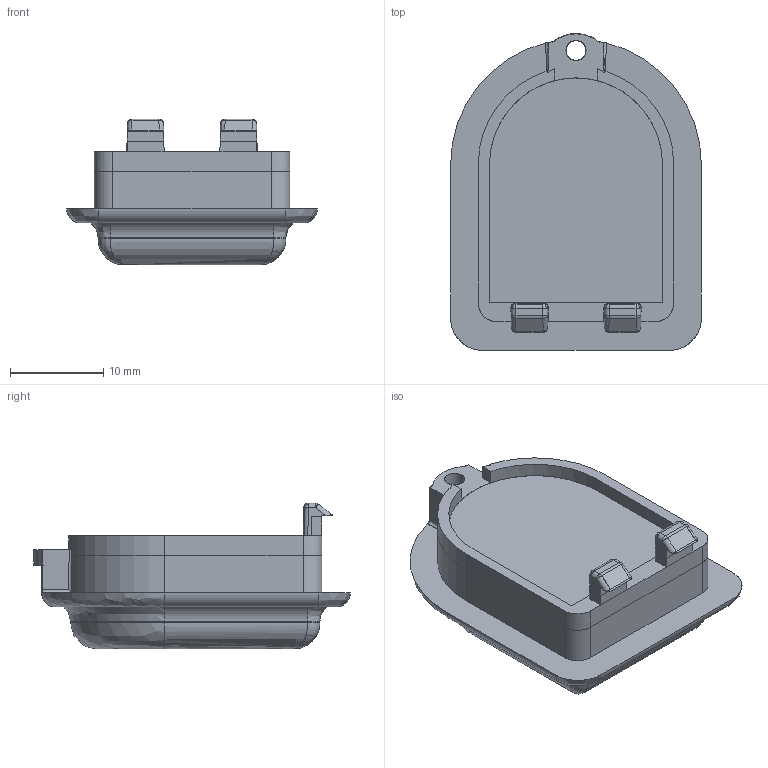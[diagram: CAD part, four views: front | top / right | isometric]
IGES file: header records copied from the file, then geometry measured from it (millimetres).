
Start section: SolidWorks IGES file using analytic representation for surfaces
Global section: file name: Z:\Desktop\DigitSensor\813Deisgn\Origin\DigitPure.IGS; native system: SolidWorks 2023; preprocessor: SolidWorks 2023; author: qingzheng; date: 240813.145600; units: millimetre
Bounding box: 26.95 x 34.04 x 15.65 mm (x, y, z)
Surface area: 6643.6 mm2 (no closed solid volume)
Topology: 0 solids, 0 shells, 259 faces, 2218 edges, 2209 vertices
Faces by surface type: bspline 149, revolution 110
